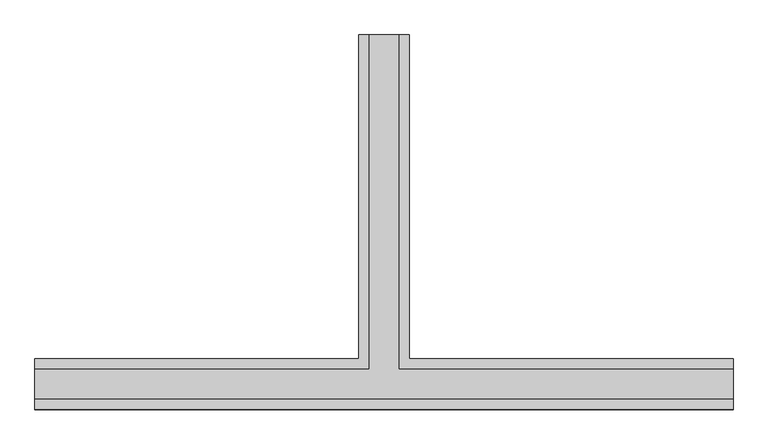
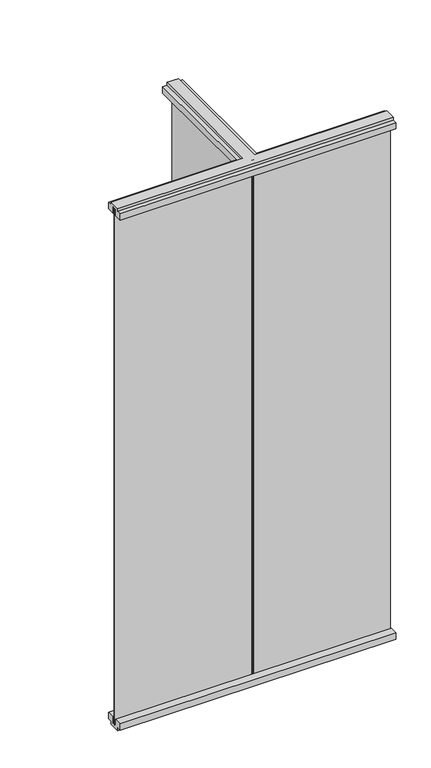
"""IFC4 building model written with IfcOpenShell, lengths in millimetres: furniture geometry, Allsteel - Aspect - Panel - 3-Way (12-11-24) : Allsteel - Aspect - Panel - 3-Way (12-11-24)."""

from ifc_helpers import new_model, si_unit, frame, origin, place, context, project, spatial, polyline, outline, extrude, faceted_brep, source, transform, mapped, element, save


def furniture_0bd9cfcd(model_context):
    return source(origin(), model_context, "Body", "SolidModel", [
        faceted_brep([(-609.6, 25.4, 2438.4), (-609.6, 25.4, 2425.7), (-609.6, 44.45, 2425.7), (-609.6, 44.45, 2395.5375), (-609.6, 9.525, 2395.5375), (-609.6, 9.525, 2425.7), (-609.6, -9.525, 2425.7), (-609.6, -9.525, 2395.5375), (-609.6, -44.45, 2395.5375), (-609.6, -44.45, 2425.7), (-609.6, -25.4, 2425.7), (-609.6, -25.4, 2438.4), (609.6, 25.4, 2438.4), (609.6, -25.4, 2438.4), (609.6, -25.4, 2425.7), (609.6, -44.45, 2425.7), (609.6, -44.45, 2395.5375), (609.6, -9.525, 2395.5375), (609.6, -9.525, 2425.7), (609.6, 9.525, 2425.7), (609.6, 9.525, 2395.5375), (609.6, 44.45, 2395.5375), (609.6, 44.45, 2425.7), (609.6, 25.4, 2425.7), (-25.4, 25.4, 2438.4), (-25.4, 25.4, 2425.7), (25.4, 25.4, 2425.7), (25.4, 25.4, 2438.4), (-25.4, 609.6, 2425.7), (-44.45, 609.6, 2425.7), (-44.45, 44.45, 2425.7), (44.45, 44.45, 2425.7), (44.45, 609.6, 2425.7), (25.4, 609.6, 2425.7), (9.525, 9.525, 2425.7), (9.525, 9.525, 2395.5375), (-9.525, 9.525, 2425.7), (-9.525, 9.525, 2395.5375), (-9.525, 609.6, 2425.7), (9.525, 609.6, 2425.7), (25.4, 609.6, 2438.4), (-25.4, 609.6, 2438.4), (-44.45, 44.45, 2395.5375), (44.45, 44.45, 2395.5375), (-44.45, 609.6, 2395.5375), (-9.525, 609.6, 2395.5375), (9.525, 609.6, 2395.5375), (44.45, 609.6, 2395.5375)], [[[0, 1, 2, 3, 4, 5, 6, 7, 8, 9, 10, 11]], [[12, 13, 14, 15, 16, 17, 18, 19, 20, 21, 22, 23]], [[1, 0, 24, 25]], [[12, 23, 26, 27]], [[2, 1, 25, 28, 29, 30]], [[23, 22, 31, 32, 33, 26]], [[20, 19, 34, 35]], [[36, 5, 4, 37]], [[6, 5, 36, 38, 39, 34, 19, 18]], [[7, 6, 18, 17]], [[10, 9, 15, 14]], [[11, 10, 14, 13]], [[0, 11, 13, 12, 27, 40, 41, 24]], [[3, 2, 30, 42]], [[22, 21, 43, 31]], [[4, 3, 42, 44, 45, 37]], [[21, 20, 35, 46, 47, 43]], [[8, 7, 17, 16]], [[9, 8, 16, 15]], [[41, 40, 33, 32, 47, 46, 39, 38, 45, 44, 29, 28]], [[41, 28, 25, 24]], [[45, 38, 36, 37]], [[34, 39, 46, 35]], [[33, 40, 27, 26]], [[29, 44, 42, 30]], [[47, 32, 31, 43]]]),
        faceted_brep([(609.6, 25.4, 0.0), (609.6, 25.4, 12.7), (609.6, 44.45, 12.7), (609.6, 44.45, 42.8625), (609.6, 9.525, 42.8625), (609.6, 9.525, 12.7), (609.6, -9.525, 12.7), (609.6, -9.525, 42.8625), (609.6, -44.45, 42.8625), (609.6, -44.45, 12.7), (609.6, -25.4, 12.7), (609.6, -25.4, 0.0), (-609.6, 25.4, 0.0), (-609.6, -25.4, 0.0), (-609.6, -25.4, 12.7), (-609.6, -44.45, 12.7), (-609.6, -44.45, 42.8625), (-609.6, -9.525, 42.8625), (-609.6, -9.525, 12.7), (-609.6, 9.525, 12.7), (-609.6, 9.525, 42.8625), (-609.6, 44.45, 42.8625), (-609.6, 44.45, 12.7), (-609.6, 25.4, 12.7), (25.4, 25.4, 0.0), (25.4, 25.4, 12.7), (-25.4, 25.4, 12.7), (-25.4, 25.4, 0.0), (25.4, 609.6, 12.7), (44.45, 609.6, 12.7), (44.45, 44.45, 12.7), (-44.45, 44.45, 12.7), (-44.45, 609.6, 12.7), (-25.4, 609.6, 12.7), (-9.525, 9.525, 12.7), (-9.525, 9.525, 42.8625), (9.525, 9.525, 12.7), (9.525, 9.525, 42.8625), (9.525, 609.6, 12.7), (-9.525, 609.6, 12.7), (-25.4, 609.6, 0.0), (25.4, 609.6, 0.0), (44.45, 44.45, 42.8625), (-44.45, 44.45, 42.8625), (44.45, 609.6, 42.8625), (9.525, 609.6, 42.8625), (-9.525, 609.6, 42.8625), (-44.45, 609.6, 42.8625)], [[[0, 1, 2, 3, 4, 5, 6, 7, 8, 9, 10, 11]], [[12, 13, 14, 15, 16, 17, 18, 19, 20, 21, 22, 23]], [[1, 0, 24, 25]], [[12, 23, 26, 27]], [[2, 1, 25, 28, 29, 30]], [[23, 22, 31, 32, 33, 26]], [[20, 19, 34, 35]], [[36, 5, 4, 37]], [[6, 5, 36, 38, 39, 34, 19, 18]], [[7, 6, 18, 17]], [[10, 9, 15, 14]], [[11, 10, 14, 13]], [[0, 11, 13, 12, 27, 40, 41, 24]], [[3, 2, 30, 42]], [[22, 21, 43, 31]], [[4, 3, 42, 44, 45, 37]], [[21, 20, 35, 46, 47, 43]], [[8, 7, 17, 16]], [[9, 8, 16, 15]], [[41, 40, 33, 32, 47, 46, 39, 38, 45, 44, 29, 28]], [[41, 28, 25, 24]], [[45, 38, 36, 37]], [[34, 39, 46, 35]], [[33, 40, 27, 26]], [[29, 44, 42, 30]], [[47, 32, 31, 43]]]),
        extrude(outline(polyline([(-609.6, 3.175), (-3.175, 3.175), (-3.175, -3.175), (-609.6, -3.175), (-609.6, 3.175)])), frame((0.0, 0.0, 12.7), z_axis=(0.0, 0.0, 1.0), x_axis=(1.0, 0.0, 0.0)), (0.0, 0.0, 1.0), 2413.0),
        extrude(outline(polyline([(3.175, 609.6), (3.175, 3.175), (-3.175, 3.175), (-3.175, 609.6), (3.175, 609.6)])), frame((0.0, 0.0, 12.7), z_axis=(0.0, 0.0, 1.0), x_axis=(1.0, 0.0, 0.0)), (0.0, 0.0, 1.0), 2413.0),
        extrude(outline(polyline([(609.6, 3.175), (609.6, -3.175), (3.175, -3.175), (3.175, 3.175), (609.6, 3.175)])), frame((0.0, 0.0, 12.7), z_axis=(0.0, 0.0, 1.0), x_axis=(1.0, 0.0, 0.0)), (0.0, 0.0, 1.0), 2413.0),
        extrude(outline(polyline([(3.175, 3.175), (3.175, -3.175), (-3.175, -3.175), (-3.175, 3.175), (3.175, 3.175)])), frame((0.0, 0.0, 22.225), z_axis=(0.0, 0.0, 1.0), x_axis=(1.0, 0.0, 0.0)), (0.0, 0.0, 1.0), 2416.175),
    ])


if __name__ == "__main__":
    model = new_model("IFC4")
    model_context = context("Model", 3, world=origin())
    ifc_project = project(units=[si_unit("LENGTHUNIT", "METRE", prefix="MILLI")], contexts=[model_context])
    site = spatial("IfcSite", under=ifc_project)
    building = spatial("IfcBuilding", under=site)
    placement = place(None, origin())
    furniture_shape = furniture_0bd9cfcd(model_context)
    element("IfcFurniture", 1, ObjectType="Allsteel - Aspect - Panel - 3-Way (12-11-24) : Allsteel - Aspect - Panel - 3-Way (12-11-24)", at=placement, inside=building, context=model_context, shape_type="MappedRepresentation", body=[
        mapped(furniture_shape, transform((0.0, 0.0, 0.0), x_axis=(1.0, 0.0, 0.0), y_axis=(0.0, 1.0, 0.0), z_axis=(0.0, 0.0, 1.0))),
    ])
    save(model, "model.ifc")
